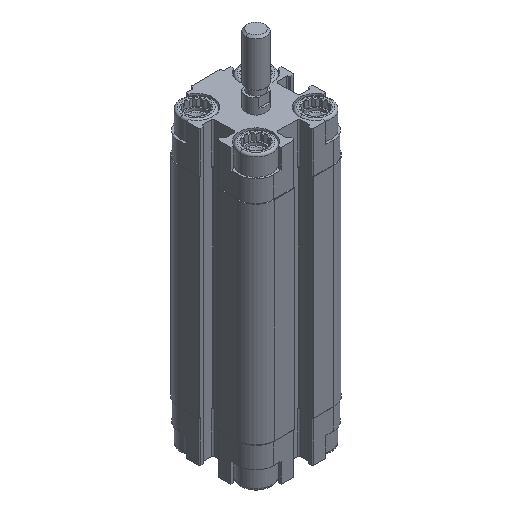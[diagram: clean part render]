
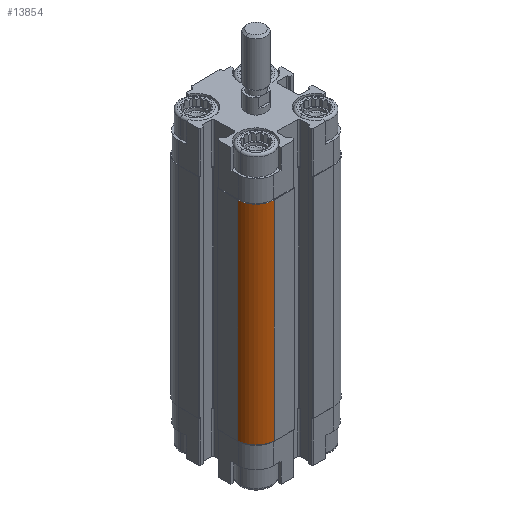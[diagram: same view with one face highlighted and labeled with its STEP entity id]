
A CAD part, isometric view. The second image highlights one B-rep face of the part: STEP entity #13854.
In plain terms, the highlighted cylindrical face has radius 5.5 mm (diameter 11 mm), a partial arc.
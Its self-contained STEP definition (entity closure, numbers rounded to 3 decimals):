
#165 = DIRECTION ( 'NONE',  ( 0., 0., 1. ) ) ;
#439 = VECTOR ( 'NONE', #5580, 1000. ) ;
#1666 = VECTOR ( 'NONE', #165, 1000. ) ;
#1976 = VERTEX_POINT ( 'NONE', #4736 ) ;
#2009 = EDGE_CURVE ( 'NONE', #1976, #7482, #13248, .T. ) ;
#2151 = CARTESIAN_POINT ( 'NONE',  ( -9., -14.5, -75.5 ) ) ;
#3849 = CARTESIAN_POINT ( 'NONE',  ( -14.5, -9., -75.5 ) ) ;
#4300 = CARTESIAN_POINT ( 'NONE',  ( -9., -9., -12.5 ) ) ;
#4736 = CARTESIAN_POINT ( 'NONE',  ( -14.5, -9., -75.5 ) ) ;
#5580 = DIRECTION ( 'NONE',  ( 0., 0., 1. ) ) ;
#5931 = EDGE_LOOP ( 'NONE', ( #8146, #9878, #12163, #16356 ) ) ;
#6731 = AXIS2_PLACEMENT_3D ( 'NONE', #8917, #7601, #12961 ) ;
#6753 = DIRECTION ( 'NONE',  ( 0., 0., 1. ) ) ;
#7482 = VERTEX_POINT ( 'NONE', #13321 ) ;
#7601 = DIRECTION ( 'NONE',  ( 0., 0., -1. ) ) ;
#7678 = FACE_OUTER_BOUND ( 'NONE', #5931, .T. ) ;
#7907 = VERTEX_POINT ( 'NONE', #11990 ) ;
#8146 = ORIENTED_EDGE ( 'NONE', *, *, #12046, .F. ) ;
#8579 = DIRECTION ( 'NONE',  ( 0., 0., 1. ) ) ;
#8917 = CARTESIAN_POINT ( 'NONE',  ( -9., -9., -75.5 ) ) ;
#9013 = VERTEX_POINT ( 'NONE', #2151 ) ;
#9275 = EDGE_CURVE ( 'NONE', #9013, #7907, #16287, .T. ) ;
#9760 = AXIS2_PLACEMENT_3D ( 'NONE', #12029, #6753, #14739 ) ;
#9878 = ORIENTED_EDGE ( 'NONE', *, *, #2009, .F. ) ;
#11990 = CARTESIAN_POINT ( 'NONE',  ( -9., -14.5, -12.5 ) ) ;
#12005 = EDGE_CURVE ( 'NONE', #1976, #9013, #16749, .T. ) ;
#12029 = CARTESIAN_POINT ( 'NONE',  ( -9., -9., -75.5 ) ) ;
#12046 = EDGE_CURVE ( 'NONE', #7482, #7907, #16463, .T. ) ;
#12163 = ORIENTED_EDGE ( 'NONE', *, *, #12005, .T. ) ;
#12601 = CARTESIAN_POINT ( 'NONE',  ( -9., -14.5, -75.5 ) ) ;
#12961 = DIRECTION ( 'NONE',  ( -1., 0., 0. ) ) ;
#13037 = CYLINDRICAL_SURFACE ( 'NONE', #6731, 5.5 ) ;
#13248 = LINE ( 'NONE', #3849, #1666 ) ;
#13321 = CARTESIAN_POINT ( 'NONE',  ( -14.5, -9., -12.5 ) ) ;
#13393 = AXIS2_PLACEMENT_3D ( 'NONE', #4300, #8579, #13940 ) ;
#13854 = ADVANCED_FACE ( 'NONE', ( #7678 ), #13037, .T. ) ;
#13940 = DIRECTION ( 'NONE',  ( -1., 0., 0. ) ) ;
#14739 = DIRECTION ( 'NONE',  ( -1., 0., 0. ) ) ;
#16287 = LINE ( 'NONE', #12601, #439 ) ;
#16356 = ORIENTED_EDGE ( 'NONE', *, *, #9275, .T. ) ;
#16463 = CIRCLE ( 'NONE', #13393, 5.5 ) ;
#16749 = CIRCLE ( 'NONE', #9760, 5.5 ) ;
